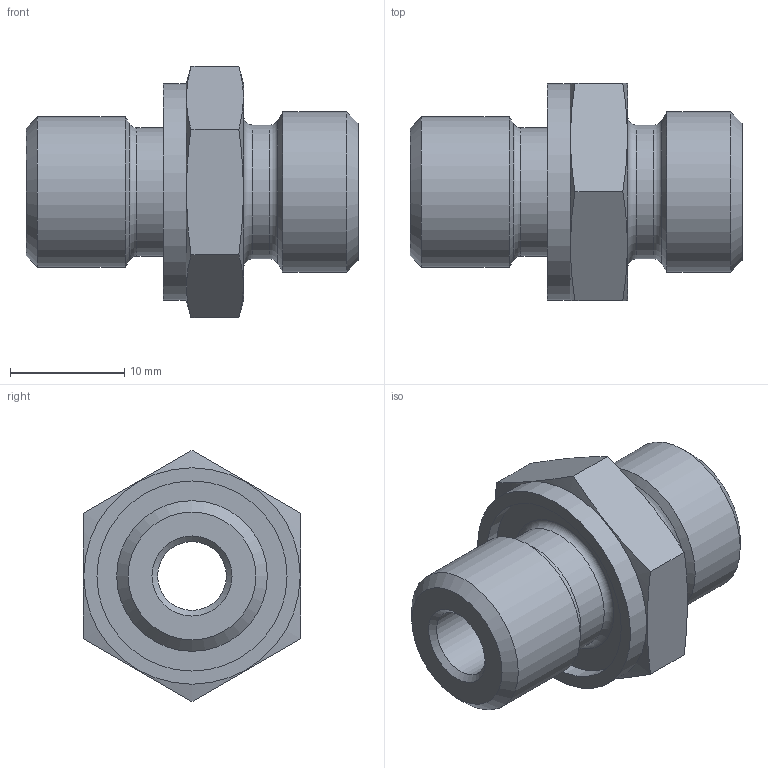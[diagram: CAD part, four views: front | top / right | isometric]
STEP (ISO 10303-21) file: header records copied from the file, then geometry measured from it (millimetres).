
FILE_DESCRIPTION(/* description */ ('Unknown','CAx-IF Rec.Pracs.---Representation and Presentation of Product Manufacturing Information (PMI)---4.0---2014-10-13','CAx-IF Rec.Pracs.---3D Tessellated Geometry---0.4---2014-09-14','2;1'),/* implementation_level */ '2;1');
FILE_NAME(/* name */ 'XGE08LED02',/* time_stamp */ '2020-11-19T08:34:51+01:00',/* author */ ('Unknown'),/* organization */ ('Unknown'),/* preprocessor_version */ 'ST-DEVELOPER v16.7',/* originating_system */ 'Solid Edge',/* authorisation */ 'Unknown');
FILE_SCHEMA (('AP242_MANAGED_MODEL_BASED_3D_ENGINEERING_MIM_LF { 1 0 10303 442 1 1 4 }'));
Length unit declared in the file: millimetre
Products named in the file (1): XGE08LED023
Bounding box: 29 x 19 x 21.94 mm (x, y, z)
Volume: 3809.4 mm3; surface area: 2626.3 mm2
Topology: 1 solids, 1 shells, 32 faces, 66 edges, 40 vertices
Faces by surface type: plane 12, cone 8, cylinder 8, torus 4
Full cylindrical faces by diameter (mm): 6 x1, 8 x1, 11.2 x1, 11.7 x1, 13.157 x1, 14 x1, 16.6 x1, 18.9 x1
Entity records: 980 total; most frequent: CARTESIAN_POINT 161, DIRECTION 122, ORIENTED_EDGE 86, EDGE_LOOP 58, FACE_BOUND 58, AXIS2_PLACEMENT_3D 58, EDGE_CURVE 43, VERTEX_POINT 37
